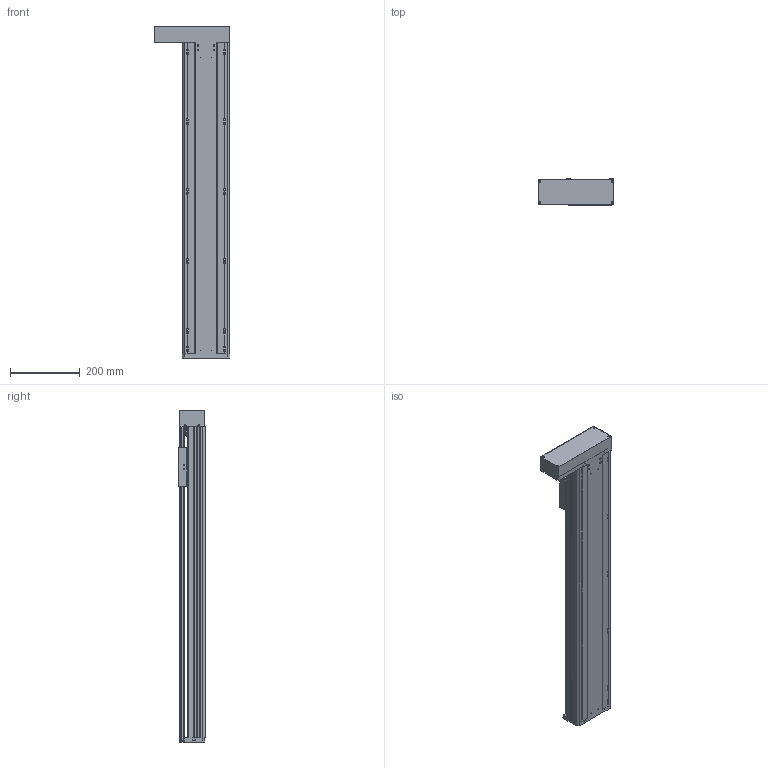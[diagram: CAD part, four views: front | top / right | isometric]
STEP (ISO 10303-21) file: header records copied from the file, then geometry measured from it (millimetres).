
FILE_DESCRIPTION(/* description */ (''),/* implementation_level */ '2;1');
FILE_NAME(/* name */ 'TKA136-FL-700_asm1.stp',/* time_stamp */ '2016-05-07T13:24:10+08:00',/* author */ (''),/* organization */ (''),/* preprocessor_version */ 'ST-DEVELOPER v15',/* originating_system */ 'SIEMENS PLM Software NX 8.5',/* authorisation */ '');
FILE_SCHEMA (('AUTOMOTIVE_DESIGN { 1 0 10303 214 3 1 1 1 }'));
Length unit declared in the file: millimetre
Products named in the file (3): 100-02; 100-01; TKA136-FL-700_asm1
Assembly tree (2 placements, depth 2):
  TKA136-FL-700_asm1
    100-01
    100-02
Bounding box: 216 x 75 x 950 mm (x, y, z)
Volume: 2924230.4 mm3; surface area: 1159749.5 mm2
Topology: 2 solids, 12 shells, 902 faces, 2566 edges, 1675 vertices
Faces by surface type: cylinder 428, plane 423, cone 51
Full cylindrical faces by diameter (mm): 2.5 x14, 3 x2, 3.3 x13, 4 x4, 4.2 x6, 4.5 x24, 5 x20, 5.5 x26, 6.6 x16, 8 x20, 10 x9, 10.5 x12, 11 x4, 11.6 x1, 12 x9, 15 x3, 16 x5, 17 x1, 24 x5, 26 x1, 28 x1, 46 x1, 50 x1
Entity records: 30432 total; most frequent: CARTESIAN_POINT 8112, DIRECTION 4608, ORIENTED_EDGE 4350, EDGE_CURVE 2175, AXIS2_PLACEMENT_3D 1743, VERTEX_POINT 1552, EDGE_LOOP 1346, LINE 1122
